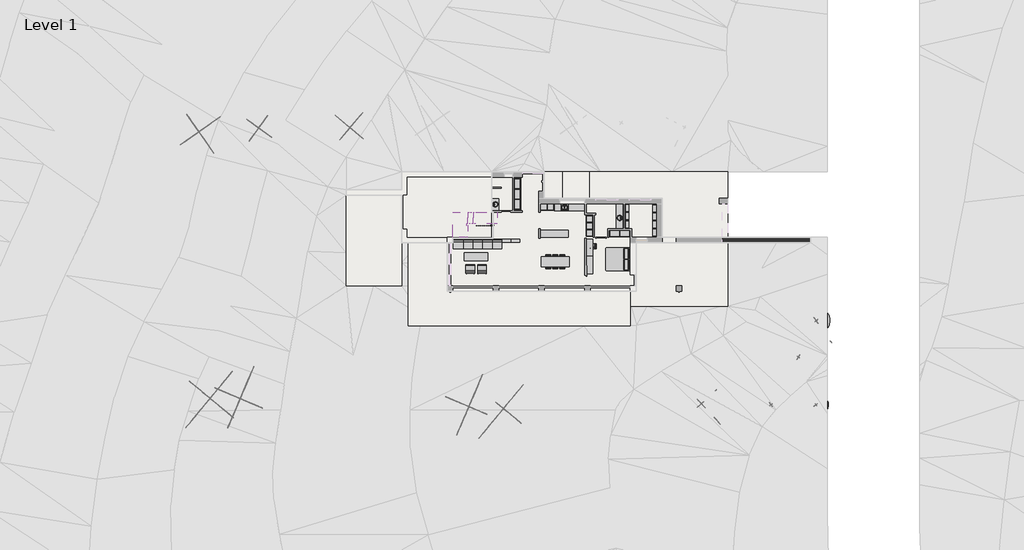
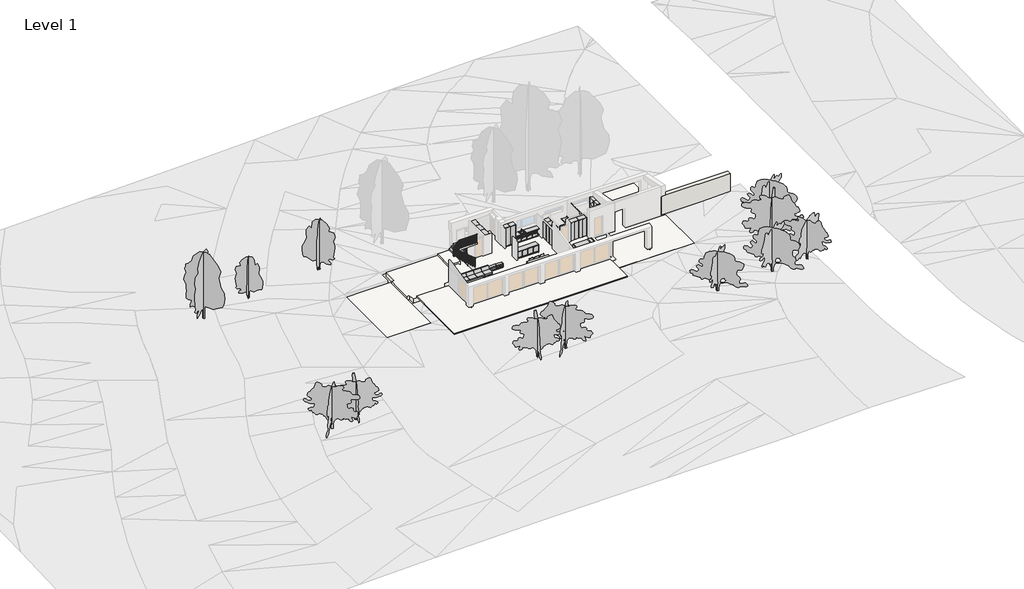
# One storey, part 2 of 3: 52 furniture elements, 12 geographic elements, 9 slabs, 3 flow terminals, 1 railing, 1 stair flight, 1 wall.
"""IFC4 building model written with IfcOpenShell, lengths in millimetres."""

from ifc_helpers import new_model, si_unit, frame, origin, place, context, project, spatial, polyline, circle_curve, outline, extrude, faceted_brep, transform, mapped, element, save
from ifc_brep_helpers import plane_surface, revolved_surface, advanced_brep
from components import sink_kitchen_single_600_x_535mm_f0c6929d, sink_vanity_round_482_x_482mm_621b7b9b, furniture_56f83323, furniture_c7f23c1d, furniture_641ccf10, furniture_1500_x_500mm_231fc5f9, furniture_2000_x_700mm_sofa_1e09125b, furniture_2400_x_900mm_03e2ad21, furniture_700_x_300_x_2200mm_207dd1db, furniture_700_x_300_x_2200mm_c5de9306, furniture_750_x_300_x_450mm_957a72fb, base_cabinet_4_drawers_600mm_2243f3cf, base_cabinet_4_drawers_600mm_b76432f2, bed_box_2000_x_2100mm_5f007bae, couch_straight_module_couch_straight_module_fcc397ea, counter_top_counter_top_cbd42a63, counter_top_w_sink_counter_top_w_sink_ceea6664, plinth_164mm_abad82ac, plinth_164mm_d3f21ff9, tall_cabinet_double_door_900mm_d8c8d432, tall_cabinet_single_door_600mm_148eb7a2, tall_cabinet_single_door_600mm_65597d0d, tall_cabinet_single_door1_600mm_2bcce20e, tall_cabinet_single_door1_600mm_31f762dd, vanity_counter_top_w_round_sink_hole_600mm_depth_7d531bef, vanity_counter_top_w_round_sink_hole_600mm_depth_8b8a0b6e, rpc_tree_deciduous_hawthorn_5_meters_4305f9dc, rpc_tree_deciduous_hawthorn_5_5_meters_a7f34c08, rpc_tree_deciduous_hawthorn_6_meters_56216889, rpc_tree_deciduous_red_ash_5_meters_e4f6fec9, rpc_tree_deciduous_red_ash_6_meters_898a03db, rpc_tree_deciduous_red_ash_8_meters_4b979eff, railing_900mm_round_profiles_ab87f60b

model = new_model("IFC4")

# Units and contexts
model_context = context("Model", 3, world=origin())
ifc_project = project(units=[si_unit("LENGTHUNIT", "METRE", prefix="MILLI")], contexts=[model_context])

# Site, building, storey
site = spatial("IfcSite", under=ifc_project)
building = spatial("IfcBuilding", under=site)
storey = spatial("IfcBuildingStorey", under=building, Name="Level 1", Elevation=0.0)

# Flow terminals
placement = place(None, origin())
sink_kitchen_single_600_x_535mm_shape = sink_kitchen_single_600_x_535mm_f0c6929d(model_context)
element("IfcFlowTerminal", 1, ObjectType="Sink Kitchen-Single : 600 x 535mm", at=placement, inside=storey, context=model_context, shape_type="MappedRepresentation", body=[
    mapped(sink_kitchen_single_600_x_535mm_shape, transform((14084.3107594, 7244.4545989, 0.0), x_axis=(1.0, 0.0, 0.0), y_axis=(0.0, 1.0, 0.0), z_axis=(0.0, 0.0, 1.0))),
])
sink_vanity_round_482_x_482mm_shape = sink_vanity_round_482_x_482mm_621b7b9b(model_context)
element("IfcFlowTerminal", 2, ObjectType="Sink Vanity - Round : 482 x 482mm", at=placement, inside=storey, context=model_context, shape_type="MappedRepresentation", body=[
    mapped(sink_vanity_round_482_x_482mm_shape, transform((8198.5909789, 7403.3482594, 0.0), x_axis=(0.0, 1.0, 0.0), y_axis=(-1.0, 0.0, 0.0), z_axis=(0.0, 0.0, 1.0))),
])
element("IfcFlowTerminal", 3, ObjectType="Sink Vanity - Round : 482 x 482mm", at=placement, inside=storey, context=model_context, shape_type="MappedRepresentation", body=[
    mapped(sink_vanity_round_482_x_482mm_shape, transform((18782.3590211, 6426.6517406, 0.0), x_axis=(0.0, -1.0, 0.0), y_axis=(1.0, 0.0, 0.0), z_axis=(0.0, 0.0, 1.0))),
])

# Furniture
furniture_shape = furniture_56f83323(model_context)
element("IfcFurniture", 4, ObjectType="Chair - Allround : Dining Chair Trendy", at=placement, inside=storey, context=model_context, shape_type="MappedRepresentation", body=[
    mapped(furniture_shape, transform((13300.0, 2860.0, 0.0), x_axis=(1.0, 0.0, 0.0), y_axis=(0.0, 1.0, 0.0), z_axis=(0.0, 0.0, 1.0))),
])
element("IfcFurniture", 5, ObjectType="Chair - Allround : Dining Chair Trendy", at=placement, inside=storey, context=model_context, shape_type="MappedRepresentation", body=[
    mapped(furniture_shape, transform((12700.0, 2860.0, 0.0), x_axis=(1.0, 0.0, 0.0), y_axis=(0.0, 1.0, 0.0), z_axis=(0.0, 0.0, 1.0))),
])
element("IfcFurniture", 6, ObjectType="Chair - Allround : Dining Chair Trendy", at=placement, inside=storey, context=model_context, shape_type="MappedRepresentation", body=[
    mapped(furniture_shape, transform((13900.0, 2220.0, 0.0), x_axis=(-1.0, 0.0, 0.0), y_axis=(0.0, -1.0, 0.0), z_axis=(0.0, 0.0, 1.0))),
])
element("IfcFurniture", 7, ObjectType="Chair - Allround : Dining Chair Trendy", at=placement, inside=storey, context=model_context, shape_type="MappedRepresentation", body=[
    mapped(furniture_shape, transform((16520.0, 3870.0, 0.0), x_axis=(0.0, -1.0, 0.0), y_axis=(1.0, 0.0, 0.0), z_axis=(0.0, 0.0, 1.0))),
])
furniture_2_shape = furniture_c7f23c1d(model_context)
element("IfcFurniture", 8, ObjectType="Armchair - Barcelona : Armchair Barcelona", at=placement, inside=storey, context=model_context, shape_type="MappedRepresentation", body=[
    mapped(furniture_2_shape, transform((6959.0, 1490.0, 0.0), x_axis=(-1.0000000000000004, 0.0, 0.0), y_axis=(0.0, -1.0000000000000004, 0.0), z_axis=(0.0, 0.0, 1.0))),
])
element("IfcFurniture", 9, ObjectType="Armchair - Barcelona : Armchair Barcelona", at=placement, inside=storey, context=model_context, shape_type="MappedRepresentation", body=[
    mapped(furniture_2_shape, transform((5947.0, 1490.0, 0.0), x_axis=(-1.0, 0.0, 0.0), y_axis=(0.0, -1.0, 0.0), z_axis=(0.0, 0.0, 1.0))),
])
furniture_3_shape = furniture_641ccf10(model_context)
element("IfcFurniture", 10, ObjectType="Chair - Allround : Dining Chair Trendy", at=placement, inside=storey, context=model_context, shape_type="MappedRepresentation", body=[
    mapped(furniture_3_shape, transform((13900.0, 2860.0, 0.0), x_axis=(-1.0, 0.0, 0.0), y_axis=(0.0, -1.0, 0.0), z_axis=(0.0, 0.0, 1.0))),
])
element("IfcFurniture", 11, ObjectType="Chair - Allround : Dining Chair Trendy", at=placement, inside=storey, context=model_context, shape_type="MappedRepresentation", body=[
    mapped(furniture_3_shape, transform((13300.0, 2220.0, 0.0), x_axis=(1.0, 0.0, 0.0), y_axis=(0.0, 1.0, 0.0), z_axis=(0.0, 0.0, 1.0))),
])
element("IfcFurniture", 12, ObjectType="Chair - Allround : Dining Chair Trendy", at=placement, inside=storey, context=model_context, shape_type="MappedRepresentation", body=[
    mapped(furniture_3_shape, transform((12700.0, 2220.0, 0.0), x_axis=(1.0, 0.0, 0.0), y_axis=(0.0, 1.0, 0.0), z_axis=(0.0, 0.0, 1.0))),
])
furniture_1500_x_500mm_shape = furniture_1500_x_500mm_231fc5f9(model_context)
element("IfcFurniture", 13, ObjectType="Table - Allround : 1500 x 500mm", at=placement, inside=storey, context=model_context, shape_type="MappedRepresentation", body=[
    mapped(furniture_1500_x_500mm_shape, transform((16275.0, 3760.0, 0.0), x_axis=(0.0, 1.0, 0.0), y_axis=(-1.0, 0.0, 0.0), z_axis=(0.0, 0.0, 1.0))),
])
element("IfcFurniture", 14, ObjectType="Table - Allround : 1500 x 500mm", at=placement, inside=storey, context=model_context, shape_type="MappedRepresentation", body=[
    mapped(furniture_1500_x_500mm_shape, transform((16275.0, 2260.0, 0.0), x_axis=(0.0, 1.0, 0.0), y_axis=(-1.0, 0.0, 0.0), z_axis=(0.0, 0.0, 1.0))),
])
furniture_2000_x_700mm_sofa_shape = furniture_2000_x_700mm_sofa_1e09125b(model_context)
element("IfcFurniture", 15, ObjectType="Table - Allround : 2000 x 700mm Sofa", at=placement, inside=storey, context=model_context, shape_type="MappedRepresentation", body=[
    mapped(furniture_2000_x_700mm_sofa_shape, transform((6440.0, 2980.0, 0.0), x_axis=(1.0, 0.0, 0.0), y_axis=(0.0, 1.0, 0.0), z_axis=(0.0, 0.0, 1.0))),
])
furniture_2400_x_900mm_shape = furniture_2400_x_900mm_03e2ad21(model_context)
element("IfcFurniture", 16, ObjectType="Table - Allround : 2400 x 900mm", at=placement, inside=storey, context=model_context, shape_type="MappedRepresentation", body=[
    mapped(furniture_2400_x_900mm_shape, transform((13300.0, 2540.0, 0.0), x_axis=(1.0, 0.0, 0.0), y_axis=(0.0, 1.0, 0.0), z_axis=(0.0, 0.0, 1.0))),
])
furniture_700_x_300_x_2200mm_shape = furniture_700_x_300_x_2200mm_207dd1db(model_context)
element("IfcFurniture", 17, ObjectType="Shelving (Floor) - Allround : 700 x 300 x 2200mm", at=placement, inside=storey, context=model_context, shape_type="MappedRepresentation", body=[
    mapped(furniture_700_x_300_x_2200mm_shape, transform((19824.8, 5780.0, 0.0), x_axis=(0.0, -1.0000000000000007, 0.0), y_axis=(1.0000000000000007, 0.0, 0.0), z_axis=(0.0, 0.0, 1.0))),
])
element("IfcFurniture", 18, ObjectType="Shelving (Floor) - Allround : 700 x 300 x 2200mm", at=placement, inside=storey, context=model_context, shape_type="MappedRepresentation", body=[
    mapped(furniture_700_x_300_x_2200mm_shape, transform((19824.8, 6480.0, 0.0), x_axis=(0.0, -1.0000000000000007, 0.0), y_axis=(1.0000000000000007, 0.0, 0.0), z_axis=(0.0, 0.0, 1.0))),
])
element("IfcFurniture", 19, ObjectType="Shelving (Floor) - Allround : 700 x 300 x 2200mm", at=placement, inside=storey, context=model_context, shape_type="MappedRepresentation", body=[
    mapped(furniture_700_x_300_x_2200mm_shape, transform((19824.8, 7180.0, 0.0), x_axis=(0.0, -1.0000000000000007, 0.0), y_axis=(1.0000000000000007, 0.0, 0.0), z_axis=(0.0, 0.0, 1.0))),
])
furniture_700_x_300_x_2200mm_2_shape = furniture_700_x_300_x_2200mm_c5de9306(model_context)
element("IfcFurniture", 20, ObjectType="Shelving (Floor) - Allround : 700 x 300 x 2200mm", at=placement, inside=storey, context=model_context, shape_type="MappedRepresentation", body=[
    mapped(furniture_700_x_300_x_2200mm_2_shape, transform((21575.2, 5760.0, 0.0), x_axis=(0.0, -1.0000000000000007, 0.0), y_axis=(1.0000000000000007, 0.0, 0.0), z_axis=(0.0, 0.0, 1.0))),
])
element("IfcFurniture", 21, ObjectType="Shelving (Floor) - Allround : 700 x 300 x 2200mm", at=placement, inside=storey, context=model_context, shape_type="MappedRepresentation", body=[
    mapped(furniture_700_x_300_x_2200mm_2_shape, transform((21575.2, 6460.0, 0.0), x_axis=(0.0, -1.0000000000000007, 0.0), y_axis=(1.0000000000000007, 0.0, 0.0), z_axis=(0.0, 0.0, 1.0))),
])
element("IfcFurniture", 22, ObjectType="Shelving (Floor) - Allround : 700 x 300 x 2200mm", at=placement, inside=storey, context=model_context, shape_type="MappedRepresentation", body=[
    mapped(furniture_700_x_300_x_2200mm_2_shape, transform((21575.2, 7160.0, 0.0), x_axis=(0.0, -1.0000000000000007, 0.0), y_axis=(1.0000000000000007, 0.0, 0.0), z_axis=(0.0, 0.0, 1.0))),
])
element("IfcFurniture", 23, ObjectType="Shelving (Floor) - Allround : 700 x 300 x 2200mm", at=placement, inside=storey, context=model_context, shape_type="MappedRepresentation", body=[
    mapped(furniture_700_x_300_x_2200mm_2_shape, transform((21575.2, 5060.0, 0.0), x_axis=(0.0, -1.0000000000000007, 0.0), y_axis=(1.0000000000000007, 0.0, 0.0), z_axis=(0.0, 0.0, 1.0))),
])
furniture_750_x_300_x_450mm_shape = furniture_750_x_300_x_450mm_957a72fb(model_context)
element("IfcFurniture", 24, ObjectType="Shelving (Floor) - Allround : 750 x 300 x 450mm", at=placement, inside=storey, context=model_context, shape_type="MappedRepresentation", body=[
    mapped(furniture_750_x_300_x_450mm_shape, transform((9085.0, 4664.8, 0.0), x_axis=(1.0000000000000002, 0.0, 0.0), y_axis=(0.0, 1.0000000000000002, 0.0), z_axis=(0.0, 0.0, 1.0))),
])
element("IfcFurniture", 25, ObjectType="Shelving (Floor) - Allround : 750 x 300 x 450mm", at=placement, inside=storey, context=model_context, shape_type="MappedRepresentation", body=[
    mapped(furniture_750_x_300_x_450mm_shape, transform((9835.0, 4664.8, 0.0), x_axis=(1.0000000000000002, 0.0, 0.0), y_axis=(0.0, 1.0000000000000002, 0.0), z_axis=(0.0, 0.0, 1.0))),
])
base_cabinet_4_drawers_600mm_shape = base_cabinet_4_drawers_600mm_2243f3cf(model_context)
element("IfcFurniture", 26, ObjectType="Base Cabinet - 4 Drawers : 600mm", at=placement, inside=storey, context=model_context, shape_type="MappedRepresentation", body=[
    mapped(base_cabinet_4_drawers_600mm_shape, transform((13455.2996736, 7560.9817781, 0.0), x_axis=(1.0, 0.0, 0.0), y_axis=(0.0, 1.0, 0.0), z_axis=(0.0, 0.0, 1.0))),
])
element("IfcFurniture", 27, ObjectType="Base Cabinet - 4 Drawers : 600mm", at=placement, inside=storey, context=model_context, shape_type="MappedRepresentation", body=[
    mapped(base_cabinet_4_drawers_600mm_shape, transform((14655.2996736, 7560.0, 0.0), x_axis=(1.0, 0.0, 0.0), y_axis=(0.0, 1.0, 0.0), z_axis=(0.0, 0.0, 1.0))),
])
element("IfcFurniture", 28, ObjectType="Base Cabinet - 4 Drawers : 600mm", at=placement, inside=storey, context=model_context, shape_type="MappedRepresentation", body=[
    mapped(base_cabinet_4_drawers_600mm_shape, transform((15255.2996736, 7560.0, 0.0), x_axis=(1.0, 0.0, 0.0), y_axis=(0.0, 1.0, 0.0), z_axis=(0.0, 0.0, 1.0))),
])
element("IfcFurniture", 29, ObjectType="Base Cabinet - 4 Drawers : 600mm", at=placement, inside=storey, context=model_context, shape_type="MappedRepresentation", body=[
    mapped(base_cabinet_4_drawers_600mm_shape, transform((12344.7003264, 4680.0, 0.0), x_axis=(-1.0000000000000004, 0.0, 0.0), y_axis=(0.0, -1.0000000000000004, 0.0), z_axis=(0.0, 0.0, 1.0))),
])
element("IfcFurniture", 30, ObjectType="Base Cabinet - 4 Drawers : 600mm", at=placement, inside=storey, context=model_context, shape_type="MappedRepresentation", body=[
    mapped(base_cabinet_4_drawers_600mm_shape, transform((12944.7003264, 4680.0, 0.0), x_axis=(-1.0, 0.0, 0.0), y_axis=(0.0, -1.0, 0.0), z_axis=(0.0, 0.0, 1.0))),
])
element("IfcFurniture", 31, ObjectType="Base Cabinet - 4 Drawers : 600mm", at=placement, inside=storey, context=model_context, shape_type="MappedRepresentation", body=[
    mapped(base_cabinet_4_drawers_600mm_shape, transform((13544.7003264, 4680.0, 0.0), x_axis=(-1.0, 0.0, 0.0), y_axis=(0.0, -1.0, 0.0), z_axis=(0.0, 0.0, 1.0))),
])
element("IfcFurniture", 32, ObjectType="Base Cabinet - 4 Drawers : 600mm", at=placement, inside=storey, context=model_context, shape_type="MappedRepresentation", body=[
    mapped(base_cabinet_4_drawers_600mm_shape, transform((14144.7003264, 4680.0, 0.0), x_axis=(-1.0, 0.0, 0.0), y_axis=(0.0, -1.0, 0.0), z_axis=(0.0, 0.0, 1.0))),
])
base_cabinet_4_drawers_600mm_2_shape = base_cabinet_4_drawers_600mm_b76432f2(model_context)
element("IfcFurniture", 33, ObjectType="Base Cabinet - 4 Drawers : 600mm", at=placement, inside=storey, context=model_context, shape_type="MappedRepresentation", body=[
    mapped(base_cabinet_4_drawers_600mm_2_shape, transform((14055.2996736, 7560.0, 0.0), x_axis=(1.0, 0.0, 0.0), y_axis=(0.0, 1.0, 0.0), z_axis=(0.0, 0.0, 1.0))),
])
bed_box_2000_x_2100mm_shape = bed_box_2000_x_2100mm_5f007bae(model_context)
element("IfcFurniture", 34, ObjectType="Bed - Box : 2000 x 2100mm", at=placement, inside=storey, context=model_context, shape_type="MappedRepresentation", body=[
    mapped(bed_box_2000_x_2100mm_shape, transform((18934.4295082, 3099.152459, 0.0), x_axis=(0.0, -1.0000000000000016, 0.0), y_axis=(1.0000000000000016, 0.0, 0.0), z_axis=(0.0, 0.0, 1.0))),
])
couch_straight_module_couch_straight_module_shape = couch_straight_module_couch_straight_module_fcc397ea(model_context)
element("IfcFurniture", 35, ObjectType="Couch - Straight Module : Couch straight module", at=placement, inside=storey, context=model_context, shape_type="MappedRepresentation", body=[
    mapped(couch_straight_module_couch_straight_module_shape, transform((4490.0, 3680.0, 0.0), x_axis=(1.0, 0.0, 0.0), y_axis=(0.0, 1.0, 0.0), z_axis=(0.0, 0.0, 1.0))),
])
element("IfcFurniture", 36, ObjectType="Couch - Straight Module : Couch straight module", at=placement, inside=storey, context=model_context, shape_type="MappedRepresentation", body=[
    mapped(couch_straight_module_couch_straight_module_shape, transform((5325.0, 3680.0, 0.0), x_axis=(1.0, 0.0, 0.0), y_axis=(0.0, 1.0, 0.0), z_axis=(0.0, 0.0, 1.0))),
])
element("IfcFurniture", 37, ObjectType="Couch - Straight Module : Couch straight module", at=placement, inside=storey, context=model_context, shape_type="MappedRepresentation", body=[
    mapped(couch_straight_module_couch_straight_module_shape, transform((6160.0, 3680.0, 0.0), x_axis=(1.0, 0.0, 0.0), y_axis=(0.0, 1.0, 0.0), z_axis=(0.0, 0.0, 1.0))),
])
element("IfcFurniture", 38, ObjectType="Couch - Straight Module : Couch straight module", at=placement, inside=storey, context=model_context, shape_type="MappedRepresentation", body=[
    mapped(couch_straight_module_couch_straight_module_shape, transform((6995.0, 3680.0, 0.0), x_axis=(1.0, 0.0, 0.0), y_axis=(0.0, 1.0, 0.0), z_axis=(0.0, 0.0, 1.0))),
])
element("IfcFurniture", 39, ObjectType="Couch - Straight Module : Couch straight module", at=placement, inside=storey, context=model_context, shape_type="MappedRepresentation", body=[
    mapped(couch_straight_module_couch_straight_module_shape, transform((7830.0, 3680.0, 0.0), x_axis=(1.0, 0.0, 0.0), y_axis=(0.0, 1.0, 0.0), z_axis=(0.0, 0.0, 1.0))),
])
counter_top_counter_top_shape = counter_top_counter_top_cbd42a63(model_context)
element("IfcFurniture", 40, ObjectType="Counter Top : Counter Top", at=placement, inside=storey, context=model_context, shape_type="MappedRepresentation", body=[
    mapped(counter_top_counter_top_shape, transform((13844.7003264, 4680.0, 0.0), x_axis=(-1.0000000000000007, 0.0, 0.0), y_axis=(0.0, -1.0000000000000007, 0.0), z_axis=(0.0, 0.0, 1.0))),
])
counter_top_w_sink_counter_top_w_sink_shape = counter_top_w_sink_counter_top_w_sink_ceea6664(model_context)
element("IfcFurniture", 41, ObjectType="Counter Top w Sink : Counter Top w Sink", at=placement, inside=storey, context=model_context, shape_type="MappedRepresentation", body=[
    mapped(counter_top_w_sink_counter_top_w_sink_shape, transform((13755.2996736, 7560.0, 0.0), x_axis=(1.0, 0.0, 0.0), y_axis=(0.0, 1.0, 0.0), z_axis=(0.0, 0.0, 1.0))),
])
plinth_164mm_shape = plinth_164mm_abad82ac(model_context)
element("IfcFurniture", 42, ObjectType="Plinth : 164mm", at=placement, inside=storey, context=model_context, shape_type="MappedRepresentation", body=[
    mapped(plinth_164mm_shape, transform((13845.2996736, 7560.0, 0.0), x_axis=(1.0, 0.0, 0.0), y_axis=(0.0, 1.0, 0.0), z_axis=(0.0, 0.0, 1.0))),
])
plinth_164mm_2_shape = plinth_164mm_d3f21ff9(model_context)
element("IfcFurniture", 43, ObjectType="Plinth : 164mm", at=placement, inside=storey, context=model_context, shape_type="MappedRepresentation", body=[
    mapped(plinth_164mm_2_shape, transform((13244.7003264, 4680.0, 0.0), x_axis=(-1.0, 0.0, 0.0), y_axis=(0.0, -1.0, 0.0), z_axis=(0.0, 0.0, 1.0))),
])
tall_cabinet_double_door_900mm_shape = tall_cabinet_double_door_900mm_d8c8d432(model_context)
element("IfcFurniture", 44, ObjectType="Tall Cabinet - Double door : 900mm", at=placement, inside=storey, context=model_context, shape_type="MappedRepresentation", body=[
    mapped(tall_cabinet_double_door_900mm_shape, transform((9720.0, 7455.2996736, 0.0), x_axis=(0.0, 1.0000000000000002, 0.0), y_axis=(-1.0000000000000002, 0.0, 0.0), z_axis=(0.0, 0.0, 1.0))),
])
element("IfcFurniture", 45, ObjectType="Tall Cabinet - Double door : 900mm", at=placement, inside=storey, context=model_context, shape_type="MappedRepresentation", body=[
    mapped(tall_cabinet_double_door_900mm_shape, transform((9720.0, 9255.2996736, 0.0), x_axis=(0.0, 1.0000000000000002, 0.0), y_axis=(-1.0000000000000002, 0.0, 0.0), z_axis=(0.0, 0.0, 1.0))),
])
element("IfcFurniture", 46, ObjectType="Tall Cabinet - Double door : 900mm", at=placement, inside=storey, context=model_context, shape_type="MappedRepresentation", body=[
    mapped(tall_cabinet_double_door_900mm_shape, transform((9720.0, 8355.2996736, 0.0), x_axis=(0.0, 1.0, 0.0), y_axis=(-1.0, 0.0, 0.0), z_axis=(0.0, 0.0, 1.0))),
])
element("IfcFurniture", 47, ObjectType="Tall Cabinet - Double door1 : 900mm 2", at=placement, inside=storey, context=model_context, shape_type="MappedRepresentation", body=[
    mapped(tall_cabinet_double_door_900mm_shape, transform((19275.2996736, 5280.0, 0.0), x_axis=(1.0000000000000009, 0.0, 0.0), y_axis=(0.0, 1.0000000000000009, 0.0), z_axis=(0.0, 0.0, 1.0))),
])
element("IfcFurniture", 48, ObjectType="Tall Cabinet - Double door1 : 900mm 2", at=placement, inside=storey, context=model_context, shape_type="MappedRepresentation", body=[
    mapped(tall_cabinet_double_door_900mm_shape, transform((18375.2996736, 5280.0, 0.0), x_axis=(1.0000000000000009, 0.0, 0.0), y_axis=(0.0, 1.0000000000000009, 0.0), z_axis=(0.0, 0.0, 1.0))),
])
tall_cabinet_single_door_600mm_shape = tall_cabinet_single_door_600mm_148eb7a2(model_context)
element("IfcFurniture", 49, ObjectType="Tall Cabinet - Single door : 600mm", at=placement, inside=storey, context=model_context, shape_type="MappedRepresentation", body=[
    mapped(tall_cabinet_single_door_600mm_shape, transform((12255.2996736, 7560.0, 0.0), x_axis=(1.0000000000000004, 0.0, 0.0), y_axis=(0.0, 1.0000000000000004, 0.0), z_axis=(0.0, 0.0, 1.0))),
])
tall_cabinet_single_door_600mm_2_shape = tall_cabinet_single_door_600mm_65597d0d(model_context)
element("IfcFurniture", 50, ObjectType="Tall Cabinet - Single door : 600mm", at=placement, inside=storey, context=model_context, shape_type="MappedRepresentation", body=[
    mapped(tall_cabinet_single_door_600mm_2_shape, transform((12944.7003264, 7560.0, 0.0), x_axis=(-1.0, 0.0, 0.0), y_axis=(0.0, -1.0, 0.0), z_axis=(0.0, 0.0, 1.0))),
])
tall_cabinet_single_door1_600mm_shape = tall_cabinet_single_door1_600mm_2bcce20e(model_context)
element("IfcFurniture", 51, ObjectType="Tall Cabinet - Single door1 : 600mm", at=placement, inside=storey, context=model_context, shape_type="MappedRepresentation", body=[
    mapped(tall_cabinet_single_door1_600mm_shape, transform((16560.0, 6284.7003264, 0.0), x_axis=(0.0, -1.0000000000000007, 0.0), y_axis=(1.0000000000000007, 0.0, 0.0), z_axis=(0.0, 0.0, 1.0))),
])
tall_cabinet_single_door1_600mm_2_shape = tall_cabinet_single_door1_600mm_31f762dd(model_context)
element("IfcFurniture", 52, ObjectType="Tall Cabinet - Single door1 : 600mm", at=placement, inside=storey, context=model_context, shape_type="MappedRepresentation", body=[
    mapped(tall_cabinet_single_door1_600mm_2_shape, transform((16560.0, 5595.2996736, 0.0), x_axis=(0.0, 1.0000000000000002, 0.0), y_axis=(-1.0000000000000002, 0.0, 0.0), z_axis=(0.0, 0.0, 1.0))),
])
element("IfcFurniture", 53, ObjectType="Tall Cabinet - Single door1 : 600mm", at=placement, inside=storey, context=model_context, shape_type="MappedRepresentation", body=[
    mapped(tall_cabinet_single_door1_600mm_2_shape, transform((16560.0, 4995.2996736, 0.0), x_axis=(0.0, 1.0000000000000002, 0.0), y_axis=(-1.0000000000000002, 0.0, 0.0), z_axis=(0.0, 0.0, 1.0))),
])
vanity_counter_top_w_round_sink_hole_600mm_depth_shape = vanity_counter_top_w_round_sink_hole_600mm_depth_7d531bef(model_context)
element("IfcFurniture", 54, ObjectType="Vanity Counter Top w Round Sink Hole : 600mm Depth", at=placement, inside=storey, context=model_context, shape_type="MappedRepresentation", body=[
    mapped(vanity_counter_top_w_round_sink_hole_600mm_depth_shape, transform((7800.0, 8287.4622951, 0.0), x_axis=(0.0, 1.0, 0.0), y_axis=(-1.0, 0.0, 0.0), z_axis=(0.0, 0.0, 1.0))),
])
vanity_counter_top_w_round_sink_hole_600mm_depth_2_shape = vanity_counter_top_w_round_sink_hole_600mm_depth_8b8a0b6e(model_context)
element("IfcFurniture", 55, ObjectType="Vanity Counter Top w Round Sink Hole : 600mm Depth", at=placement, inside=storey, context=model_context, shape_type="MappedRepresentation", body=[
    mapped(vanity_counter_top_w_round_sink_hole_600mm_depth_2_shape, transform((19200.0, 6232.5377049, 0.0), x_axis=(0.0, -1.0, 0.0), y_axis=(1.0, 0.0, 0.0), z_axis=(0.0, 0.0, 1.0))),
])

# Geographic elements
rpc_tree_deciduous_hawthorn_5_meters_shape = rpc_tree_deciduous_hawthorn_5_meters_4305f9dc(model_context)
element("IfcGeographicElement", 56, ObjectType="RPC Tree - Deciduous : Hawthorn - 5 Meters", at=placement, inside=storey, context=model_context, shape_type="MappedRepresentation", body=[
    mapped(rpc_tree_deciduous_hawthorn_5_meters_shape, transform((25931.4778564, -9732.4876961, 17.9054303), x_axis=(0.7313537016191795, 0.681998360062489, 0.0), y_axis=(-0.681998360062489, 0.7313537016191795, 0.0), z_axis=(0.0, 0.0, 1.0))),
])
element("IfcGeographicElement", 57, ObjectType="RPC Tree - Deciduous : Hawthorn - 5 Meters", at=placement, inside=storey, context=model_context, shape_type="MappedRepresentation", body=[
    mapped(rpc_tree_deciduous_hawthorn_5_meters_shape, transform((35831.4778564, -9832.4876961, 354.4903961), x_axis=(-0.5735764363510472, 0.819152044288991, 0.0), y_axis=(-0.819152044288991, -0.5735764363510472, 0.0), z_axis=(0.0, 0.0, 1.0))),
])
element("IfcGeographicElement", 58, ObjectType="RPC Tree - Deciduous : Hawthorn - 5 Meters", at=placement, inside=storey, context=model_context, shape_type="MappedRepresentation", body=[
    mapped(rpc_tree_deciduous_hawthorn_5_meters_shape, transform((-13954.6918253, -9293.9976337, -1439.2268274), x_axis=(-0.920504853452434, 0.39073112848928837, 0.0), y_axis=(-0.39073112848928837, -0.920504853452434, 0.0), z_axis=(0.0, 0.0, 1.0))),
])
element("IfcGeographicElement", 59, ObjectType="RPC Tree - Deciduous : Hawthorn - 5 Meters", at=placement, inside=storey, context=model_context, shape_type="MappedRepresentation", body=[
    mapped(rpc_tree_deciduous_hawthorn_5_meters_shape, transform((5822.4581118, -9984.6309279, -560.6480511), x_axis=(-0.920504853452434, 0.39073112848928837, 0.0), y_axis=(-0.39073112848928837, -0.920504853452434, 0.0), z_axis=(0.0, 0.0, 1.0))),
])
rpc_tree_deciduous_hawthorn_5_5_meters_shape = rpc_tree_deciduous_hawthorn_5_5_meters_a7f34c08(model_context)
element("IfcGeographicElement", 60, ObjectType="RPC Tree - Deciduous : Hawthorn - 5.5 Meters", at=placement, inside=storey, context=model_context, shape_type="MappedRepresentation", body=[
    mapped(rpc_tree_deciduous_hawthorn_5_5_meters_shape, transform((35860.8882395, -2552.0610026, 80.1860957), x_axis=(0.819152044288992, 0.5735764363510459, 0.0), y_axis=(-0.5735764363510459, 0.819152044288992, 0.0), z_axis=(0.0, 0.0, 1.0))),
])
element("IfcGeographicElement", 61, ObjectType="RPC Tree - Deciduous : Hawthorn - 5.5 Meters", at=placement, inside=storey, context=model_context, shape_type="MappedRepresentation", body=[
    mapped(rpc_tree_deciduous_hawthorn_5_5_meters_shape, transform((31951.4778564, -9832.4876961, 264.732577), x_axis=(0.819152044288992, 0.5735764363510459, 0.0), y_axis=(-0.5735764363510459, 0.819152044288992, 0.0), z_axis=(0.0, 0.0, 1.0))),
])
element("IfcGeographicElement", 62, ObjectType="RPC Tree - Deciduous : Hawthorn - 5.5 Meters", at=placement, inside=storey, context=model_context, shape_type="MappedRepresentation", body=[
    mapped(rpc_tree_deciduous_hawthorn_5_5_meters_shape, transform((-16559.4553591, -9267.9791277, -1603.9724366), x_axis=(0.7705446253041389, -0.6373860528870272, 0.0), y_axis=(0.6373860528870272, 0.7705446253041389, 0.0), z_axis=(0.0, 0.0, 1.0))),
])
element("IfcGeographicElement", 63, ObjectType="RPC Tree - Deciduous : Hawthorn - 5.5 Meters", at=placement, inside=storey, context=model_context, shape_type="MappedRepresentation", body=[
    mapped(rpc_tree_deciduous_hawthorn_5_5_meters_shape, transform((8814.2832092, -10154.0496034, -473.927375), x_axis=(0.7705446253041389, -0.6373860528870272, 0.0), y_axis=(0.6373860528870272, 0.7705446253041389, 0.0), z_axis=(0.0, 0.0, 1.0))),
])
rpc_tree_deciduous_hawthorn_6_meters_shape = rpc_tree_deciduous_hawthorn_6_meters_56216889(model_context)
element("IfcGeographicElement", 64, ObjectType="RPC Tree - Deciduous : Hawthorn - 6 Meters", at=placement, inside=storey, context=model_context, shape_type="MappedRepresentation", body=[
    mapped(rpc_tree_deciduous_hawthorn_6_meters_shape, transform((34326.5892258, -5697.8401647, 147.5518691), x_axis=(-0.819152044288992, 0.5735764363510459, 0.0), y_axis=(-0.5735764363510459, -0.819152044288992, 0.0), z_axis=(0.0, 0.0, 1.0))),
])
rpc_tree_deciduous_red_ash_5_meters_shape = rpc_tree_deciduous_red_ash_5_meters_e4f6fec9(model_context)
element("IfcGeographicElement", 65, ObjectType="RPC Tree - Deciduous : Red Ash - 5 Meters", at=placement, inside=storey, context=model_context, shape_type="MappedRepresentation", body=[
    mapped(rpc_tree_deciduous_red_ash_5_meters_shape, transform((-12360.6300549, 14116.9024271, -1884.1929158), x_axis=(0.8090169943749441, -0.5877852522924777, 0.0), y_axis=(0.5877852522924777, 0.8090169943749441, 0.0), z_axis=(0.0, 0.0, 1.0))),
])
rpc_tree_deciduous_red_ash_6_meters_shape = rpc_tree_deciduous_red_ash_6_meters_898a03db(model_context)
element("IfcGeographicElement", 66, ObjectType="RPC Tree - Deciduous : Red Ash - 6 Meters", at=placement, inside=storey, context=model_context, shape_type="MappedRepresentation", body=[
    mapped(rpc_tree_deciduous_red_ash_6_meters_shape, transform((-4460.1427165, 14144.8220245, -1293.8504122), x_axis=(-0.7660444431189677, 0.6427876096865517, 0.0), y_axis=(-0.6427876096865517, -0.7660444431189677, 0.0), z_axis=(0.0, 0.0, 1.0))),
])
rpc_tree_deciduous_red_ash_8_meters_shape = rpc_tree_deciduous_red_ash_8_meters_4b979eff(model_context)
element("IfcGeographicElement", 67, ObjectType="RPC Tree - Deciduous : Red Ash - 8 Meters", at=placement, inside=storey, context=model_context, shape_type="MappedRepresentation", body=[
    mapped(rpc_tree_deciduous_red_ash_8_meters_shape, transform((-17521.9198672, 13783.8516983, -2283.4360142), x_axis=(0.8191520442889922, 0.5735764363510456, 0.0), y_axis=(-0.5735764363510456, 0.8191520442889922, 0.0), z_axis=(0.0, 0.0, 1.0))),
])

# Railing
railing_900mm_round_profiles_shape = railing_900mm_round_profiles_ab87f60b(model_context)
element("IfcRailing", 68, ObjectType="900mm round profiles", at=placement, inside=storey, context=model_context, shape_type="MappedRepresentation", body=[
    mapped(railing_900mm_round_profiles_shape, transform((0.0, 0.0, 0.0), x_axis=(1.0, 0.0, 0.0), y_axis=(0.0, 1.0, 0.0), z_axis=(0.0, 0.0, 1.0))),
])

# Slabs
element("IfcSlab", 69, ObjectType="200 mm Thickness", at=placement, inside=storey, context=model_context, shape_type="Brep", body=[
    faceted_brep([(5730.0, 4680.0, 2000.0), (5730.0, 5680.0, 2000.0), (5580.0, 5680.0, 2000.0), (5580.0, 5840.0, 2000.0), (5728.5962598, 5840.0, 2000.0), (5730.0, 5840.0, 2000.0), (5730.0, 6840.0, 2000.0), (5728.5962598, 6840.0, 2000.0), (4440.0, 6840.0, 2000.0), (4440.0, 4680.0, 2000.0), (5501.4037402, 4680.0, 2000.0), (5730.0, 4680.0, 1800.0), (5730.0, 4680.0, 1601.2206436), (5730.0, 5680.0, 1601.2206436), (5730.0, 5680.0, 1800.0), (5501.4037402, 5680.0, 1800.0), (5580.0, 5680.0, 1800.0), (5730.0, 6840.0, 1801.2206436), (5728.5962598, 6840.0, 1800.0), (4440.0, 6840.0, 1800.0), (4440.0, 4680.0, 1800.0), (5501.4037402, 4680.0, 1800.0), (5728.5962598, 5840.0, 1800.0), (5580.0, 5840.0, 1800.0), (5730.0, 5840.0, 1801.2206436)], [[[0, 1, 2, 3, 4, 5, 6, 7, 8, 9, 10]], [[1, 0, 11, 12, 13, 14]], [[2, 1, 14, 13, 15, 16]], [[6, 17, 18, 19, 8, 7]], [[9, 8, 19, 20]], [[12, 11, 0, 10, 9, 20, 21]], [[15, 21, 20, 19, 18, 22, 23, 16]], [[21, 15, 13, 12]], [[22, 18, 17, 24]], [[3, 2, 16, 23]], [[3, 23, 22, 24, 5, 4]], [[6, 5, 24, 17]]]),
])
element("IfcSlab", 70, ObjectType="200 mm Thickness", at=placement, inside=storey, context=model_context, shape_type="Brep", body=[
    faceted_brep([(6190.0, 6840.0, 2600.0), (6190.0, 5840.0, 2600.0), (6418.5962598, 5840.0, 2600.0), (8280.0, 5840.0, 2600.0), (8280.0, 6840.0, 2600.0), (6418.5962598, 6840.0, 2600.0), (8280.0, 5840.0, 2400.0), (8280.0, 6840.0, 2400.0), (6190.0, 6840.0, 2201.2206436), (6190.0, 6840.0, 2400.0), (6418.5962598, 6840.0, 2400.0), (6190.0, 5840.0, 2400.0), (6190.0, 5840.0, 2201.2206436), (6418.5962598, 5840.0, 2400.0)], [[[0, 1, 2, 3, 4, 5]], [[4, 3, 6, 7]], [[8, 9, 0, 5, 4, 7, 10]], [[1, 11, 12, 13, 6, 3, 2]], [[13, 10, 7, 6]], [[1, 0, 9, 8, 12, 11]], [[10, 13, 12, 8]]]),
])
element("IfcSlab", 71, ObjectType="Generic - 500mm", at=placement, inside=storey, context=model_context, shape_type="Brep", body=[
    faceted_brep([(10440.0, 9840.0, -500.0), (10440.0, 10162.5, -500.0), (12200.0, 10162.5, -500.0), (12200.0, 9840.0, -500.0), (12200.0, 8640.5, -500.0), (11880.0, 8640.5, -500.0), (11880.0, 7560.0, -500.0), (22080.0, 7560.0, -500.0), (22080.0, 4680.0, -500.0), (21240.0, 4680.0, -500.0), (21240.0, 4425.0, -500.0), (20280.0, 4425.0, -500.0), (20280.0, 4680.0, -500.0), (19800.0, 4680.0, -500.0), (19800.0, 1440.0, -500.0), (20115.0, 1440.0, -500.0), (20115.0, 480.0, -500.0), (19800.0, 480.0, -500.0), (19800.0, 415.0, -500.0), (4240.0, 415.0, -500.0), (4240.0, 480.0, -500.0), (4240.0, 4200.0, -500.0), (4440.0, 4200.0, -500.0), (4440.0, 4560.0, -500.0), (7800.0, 4560.0, -500.0), (7800.0, 4680.0, -500.0), (7800.0, 6840.0, -500.0), (7800.0, 9840.0, -500.0), (10440.0, 9840.0, 0.0), (7800.0, 9840.0, 0.0), (7800.0, 4680.0, 0.0), (7800.0, 4560.0, 0.0), (4440.0, 4560.0, 0.0), (4440.0, 4200.0, 0.0), (4240.0, 4200.0, 0.0), (4240.0, 480.0, 0.0), (4240.0, 415.0, 0.0), (19800.0, 415.0, 0.0), (19800.0, 480.0, 0.0), (20115.0, 480.0, 0.0), (20115.0, 1440.0, 0.0), (19800.0, 1440.0, 0.0), (19800.0, 4200.0, 0.0), (19800.0, 4680.0, 0.0), (20280.0, 4680.0, 0.0), (20280.0, 4425.0, 0.0), (21240.0, 4425.0, 0.0), (21240.0, 4680.0, 0.0), (22080.0, 4680.0, 0.0), (22080.0, 7560.0, 0.0), (12360.0, 7560.0, 0.0), (11880.0, 7560.0, 0.0), (11880.0, 8640.5, 0.0), (12200.0, 8640.5, 0.0), (12200.0, 9840.0, 0.0), (12200.0, 10162.5, 0.0), (10440.0, 10162.5, 0.0)], [[[0, 1, 2, 3, 4, 5, 6, 7, 8, 9, 10, 11, 12, 13, 14, 15, 16, 17, 18, 19, 20, 21, 22, 23, 24, 25, 26, 27]], [[28, 29, 30, 31, 32, 33, 34, 35, 36, 37, 38, 39, 40, 41, 42, 43, 44, 45, 46, 47, 48, 49, 50, 51, 52, 53, 54, 55, 56]], [[6, 5, 52, 51]], [[7, 6, 51, 50, 49]], [[19, 18, 37, 36]], [[21, 20, 19, 36, 35, 34]], [[0, 27, 29, 28]], [[13, 12, 44, 43]], [[18, 17, 38, 37]], [[8, 7, 49, 48]], [[22, 21, 34, 33]], [[23, 22, 33, 32]], [[24, 23, 32, 31]], [[27, 26, 25, 24, 31, 30, 29]], [[4, 3, 2, 55, 54, 53]], [[5, 4, 53, 52]], [[9, 8, 48, 47]], [[10, 9, 47, 46]], [[11, 10, 46, 45]], [[12, 11, 45, 44]], [[14, 13, 43, 42, 41]], [[15, 14, 41, 40]], [[16, 15, 40, 39]], [[17, 16, 39, 38]], [[1, 0, 28, 56]], [[2, 1, 56, 55]]]),
])
element("IfcSlab", 72, ObjectType="Generic - 500mm", at=placement, inside=storey, context=model_context, shape_type="SweptSolid", body=[
    extrude(outline(polyline([(7800.0, 4680.0), (4320.0, 4680.0), (480.0, 4680.0), (480.0, 5400.0), (165.0, 5400.0), (165.0, 8280.0), (480.0, 8280.0), (480.0, 9840.0), (7800.0, 9840.0), (7800.0, 4680.0)])), frame((0.0, 0.0, -1100.0), z_axis=(0.0, 0.0, 1.0), x_axis=(1.0, 0.0, 0.0)), (0.0, 0.0, 1.0), 500.0),
])
element("IfcSlab", 73, ObjectType="Generic - Concrete - 100mm (Ext)", at=placement, inside=storey, context=model_context, shape_type="AdvancedBrep", body=[
    advanced_brep(
    [(22556.2008084, 8040.0, -200.0), (12360.0, 8040.0, -200.0), (12360.0, 10320.0, -200.0), (28196.2008084, 10320.0, -200.0), (28196.2008084, 8040.0, -200.0), (28196.2008084, 7560.0, -200.0), (28196.2008084, 4680.0, -200.0), (28196.2008084, 4200.0, -200.0), (28196.2008084, -1300.0, -200.0), (19796.2008084, -1300.0, -200.0), (19796.2008084, 0.0, -200.0), (20276.2008084, 0.0, -200.0), (20276.2008084, 4200.0, -200.0), (22556.2008084, 4200.0, -200.0), (22556.2008084, 4680.0, -200.0), (24000.0, -97.5, -200.0), (24000.0, -22.5, -200.0), (22556.2008084, 8040.0, -100.0), (16279.8209802, 8040.0, -100.0), (13955.5016504, 8040.0, 0.0), (12360.0, 8040.0, 0.0), (12360.0, 9840.0, 0.0), (12360.0, 10320.0, 0.0), (13955.5016504, 10320.0, 0.0), (16279.8209802, 10320.0, -100.0), (28196.2008084, 10320.0, -100.0), (28196.2008084, 8040.0, -100.0), (28196.2008084, 7560.0, -100.0), (28196.2008084, 4680.0, -100.0), (28196.2008084, 4200.0, -100.0), (28196.2008084, -1300.0, -100.0), (19796.2008084, -1300.0, -100.0), (19796.2008084, 0.0, -100.0), (20276.2008084, 0.0, -100.0), (20276.2008084, 4200.0, -100.0), (22556.2008084, 4200.0, -100.0), (22556.2008084, 4680.0, -100.0), (24000.0, -22.5, -100.0), (24000.0, -97.5, -100.0)],
    [
        (0, 1),
        (1, 2),
        (2, 3),
        (3, 4),
        (4, 5),
        (5, 6),
        (6, 7),
        (7, 8),
        (8, 9),
        (9, 10),
        (10, 11),
        (11, 12),
        (12, 13),
        (13, 14),
        (14, 0),
        (15, 16, circle_curve(frame((24000.0, -60.0, -200.0), z_axis=(0.0, 0.0, 1.0), x_axis=(0.0, 1.0, 0.0)), 37.5)),
        (16, 15, circle_curve(frame((24000.0, -60.0, -200.0), z_axis=(0.0, 0.0, 1.0), x_axis=(0.0, 1.0, 0.0)), 37.5)),
        (0, 17),
        (17, 18),
        (18, 19),
        (19, 20),
        (20, 1),
        (20, 21),
        (21, 22),
        (22, 2),
        (22, 23),
        (23, 24),
        (24, 25),
        (25, 3),
        (25, 26),
        (26, 27),
        (27, 28),
        (28, 29),
        (29, 30),
        (30, 8),
        (30, 31),
        (31, 9),
        (31, 32),
        (32, 10),
        (32, 33),
        (33, 11),
        (33, 34),
        (34, 12),
        (34, 35),
        (35, 13),
        (35, 36),
        (36, 17),
        (24, 18),
        (37, 38, circle_curve(frame((24000.0, -60.0, -100.0), z_axis=(0.0, 0.0, -1.0), x_axis=(0.0, 1.0, 0.0)), 37.5)),
        (38, 37, circle_curve(frame((24000.0, -60.0, -100.0), z_axis=(0.0, 0.0, -1.0), x_axis=(0.0, 1.0, 0.0)), 37.5)),
        (23, 19),
        (15, 38),
        (37, 16),
    ],
    [
        plane_surface(frame((28196.2008084, 8040.0, -200.0), z_axis=(0.0, 0.0, -1.0), x_axis=(-1.0, 0.0, 0.0))),
        plane_surface(frame((22556.2008084, 8040.0, -200.0), z_axis=(0.0, -1.0, 0.0), x_axis=(0.0, 0.0, 1.0))),
        plane_surface(frame((12360.0, 8040.0, -200.0), z_axis=(-1.0, 0.0, 0.0), x_axis=(0.0, 0.0, 1.0))),
        plane_surface(frame((12360.0, 10320.0, -200.0), z_axis=(0.0, 1.0, 0.0), x_axis=(0.0, 0.0, 1.0))),
        plane_surface(frame((28196.2008084, 10320.0, -200.0), z_axis=(1.0, 0.0, 0.0), x_axis=(0.0, 0.0, 1.0))),
        plane_surface(frame((28196.2008084, -1300.0, -200.0), z_axis=(0.0, -1.0, 0.0), x_axis=(0.0, 0.0, 1.0))),
        plane_surface(frame((19796.2008084, -1300.0, -200.0), z_axis=(-1.0, 0.0, 0.0), x_axis=(0.0, 0.0, 1.0))),
        plane_surface(frame((19796.2008084, 0.0, -200.0), z_axis=(0.0, 1.0, 0.0), x_axis=(0.0, 0.0, 1.0))),
        plane_surface(frame((20276.2008084, 0.0, -200.0), z_axis=(-1.0, 0.0, 0.0), x_axis=(0.0, 0.0, 1.0))),
        plane_surface(frame((20276.2008084, 4200.0, -200.0), z_axis=(0.0, 1.0, 0.0), x_axis=(0.0, 0.0, 1.0))),
        plane_surface(frame((22556.2008084, 4200.0, -200.0), z_axis=(-1.0, 0.0, 0.0), x_axis=(0.0, 0.0, 1.0))),
        plane_surface(frame((21420.9248428, 4252.0, -100.0), z_axis=(0.0, 0.0, 1.0), x_axis=(-1.0, 0.0, 0.0))),
        plane_surface(frame((15117.6613153, 9180.0, -50.0), z_axis=(0.04298358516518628, 0.0, 0.9990757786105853), x_axis=(0.9990757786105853, 0.0, -0.04298358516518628))),
        plane_surface(frame((13157.7508252, 9180.0, 0.0), z_axis=(0.0, 0.0, 1.0), x_axis=(0.0, -1.0, 0.0))),
        revolved_surface(polyline([(24000.0, -22.5, -200.0), (24000.0, -22.5, -100.0)]), (24000.0, -60.0, -600.0), (0.0, 0.0, -1.0)),
    ],
    [
        (0, [[1, 2, 3, 4, 5, 6, 7, 8, 9, 10, 11, 12, 13, 14, 15], [16, 17]]),
        (1, [[-1, 18, 19, 20, 21, 22]]),
        (2, [[-2, -22, 23, 24, 25]]),
        (3, [[-3, -25, 26, 27, 28, 29]]),
        (4, [[-8, -7, -6, -5, -4, -29, 30, 31, 32, 33, 34, 35]]),
        (5, [[-9, -35, 36, 37]]),
        (6, [[-10, -37, 38, 39]]),
        (7, [[-11, -39, 40, 41]]),
        (8, [[-12, -41, 42, 43]]),
        (9, [[-13, -43, 44, 45]]),
        (10, [[-15, -14, -45, 46, 47, -18]]),
        (11, [[-47, -46, -44, -42, -40, -38, -36, -34, -33, -32, -31, -30, -28, 48, -19], [49, 50]]),
        (12, [[-20, -48, -27, 51]]),
        (13, [[-24, -23, -21, -51, -26]]),
        (14, [[52, -49, 53, -16]]),
        (14, [[-52, -17, -53, -50]]),
    ],
),
])
element("IfcSlab", 74, ObjectType="Generic - Concrete - 100mm (Ext)", at=placement, inside=storey, context=model_context, shape_type="SweptSolid", body=[
    extrude(outline(polyline([(0.0, 8280.0), (0.0, 480.0), (-4800.0, 480.0), (-4800.0, 8280.0), (0.0, 8280.0)])), frame((0.0, 0.0, -800.0), z_axis=(0.0, 0.0, 1.0), x_axis=(1.0, 0.0, 0.0)), (0.0, 0.0, 1.0), 100.0),
])
element("IfcSlab", 75, ObjectType="Generic - Wood - 120mm (Ext)", at=placement, inside=storey, context=model_context, shape_type="AdvancedBrep", body=[
    advanced_brep(
    [(4140.0, 300.0, -120.0), (19800.0, 300.0, -120.0), (19800.0, 0.0, -120.0), (19800.0, -3000.0, -120.0), (600.0, -3000.0, -120.0), (600.0, 4200.0, -120.0), (3960.0, 4200.0, -120.0), (4140.0, 4200.0, -120.0), (4140.0, 480.0, -120.0), (4220.0, -22.5, -120.0), (4220.0, -97.5, -120.0), (19800.0, 300.0, 0.0), (4140.0, 300.0, 0.0), (4140.0, 480.0, 0.0), (4140.0, 4200.0, 0.0), (3960.0, 4200.0, 0.0), (600.0, 4200.0, 0.0), (600.0, -3000.0, 0.0), (19800.0, -3000.0, 0.0), (19800.0, 0.0, 0.0), (4220.0, -97.5, 0.0), (4220.0, -22.5, 0.0)],
    [
        (0, 1),
        (1, 2),
        (2, 3),
        (3, 4),
        (4, 5),
        (5, 6),
        (6, 7),
        (7, 8),
        (8, 0),
        (9, 10, circle_curve(frame((4220.0, -60.0, -120.0), z_axis=(0.0, 0.0, 1.0), x_axis=(0.0, 1.0, 0.0)), 37.5)),
        (10, 9, circle_curve(frame((4220.0, -60.0, -120.0), z_axis=(0.0, 0.0, 1.0), x_axis=(0.0, 1.0, 0.0)), 37.5)),
        (11, 12),
        (12, 13),
        (13, 14),
        (14, 15),
        (15, 16),
        (16, 17),
        (17, 18),
        (18, 19),
        (19, 11),
        (20, 21, circle_curve(frame((4220.0, -60.0, 0.0), z_axis=(0.0, 0.0, -1.0), x_axis=(0.0, 1.0, 0.0)), 37.5)),
        (21, 20, circle_curve(frame((4220.0, -60.0, 0.0), z_axis=(0.0, 0.0, -1.0), x_axis=(0.0, 1.0, 0.0)), 37.5)),
        (0, 12),
        (11, 1),
        (18, 3),
        (17, 4),
        (16, 5),
        (14, 7),
        (20, 10),
        (9, 21),
    ],
    [
        plane_surface(frame((3960.0, 300.0, -120.0), z_axis=(0.0, 0.0, -1.0), x_axis=(1.0, 0.0, 0.0))),
        plane_surface(frame((3960.0, 300.0, 0.0), z_axis=(0.0, 0.0, 1.0), x_axis=(-1.0, 0.0, 0.0))),
        plane_surface(frame((4140.0, 300.0, -120.0), z_axis=(0.0, 1.0, 0.0), x_axis=(0.0, 0.0, 1.0))),
        plane_surface(frame((19800.0, 300.0, -120.0), z_axis=(1.0, 0.0, 0.0), x_axis=(0.0, 0.0, 1.0))),
        plane_surface(frame((19800.0, -3000.0, -120.0), z_axis=(0.0, -1.0, 0.0), x_axis=(0.0, 0.0, 1.0))),
        plane_surface(frame((600.0, -3000.0, -120.0), z_axis=(-1.0, 0.0, 0.0), x_axis=(0.0, 0.0, 1.0))),
        plane_surface(frame((600.0, 4200.0, -120.0), z_axis=(0.0, 1.0, 0.0), x_axis=(0.0, 0.0, 1.0))),
        plane_surface(frame((4140.0, 4200.0, -120.0), z_axis=(1.0, 0.0, 0.0), x_axis=(0.0, 0.0, 1.0))),
        revolved_surface(polyline([(4220.0, -22.5, -120.0), (4220.0, -22.5, 0.0)]), (4220.0, -60.0, -600.0), (0.0, 0.0, -1.0)),
    ],
    [
        (0, [[1, 2, 3, 4, 5, 6, 7, 8, 9], [10, 11]]),
        (1, [[12, 13, 14, 15, 16, 17, 18, 19, 20], [21, 22]]),
        (2, [[-1, 23, -12, 24]]),
        (3, [[-3, -2, -24, -20, -19, 25]]),
        (4, [[-4, -25, -18, 26]]),
        (5, [[-5, -26, -17, 27]]),
        (6, [[-7, -6, -27, -16, -15, 28]]),
        (7, [[-9, -8, -28, -14, -13, -23]]),
        (8, [[29, -10, 30, -21]]),
        (8, [[-29, -22, -30, -11]]),
    ],
),
])
element("IfcSlab", 76, ObjectType="Pad 1", at=placement, inside=storey, context=model_context, shape_type="SweptSolid", body=[
    extrude(outline(polyline([(4440.0, 4200.0), (4440.0, 4560.0), (7920.0, 4560.0), (7920.0, 6840.0), (7800.0, 6840.0), (7800.0, 10320.0), (12360.0, 10320.0), (12360.0, 8040.0), (22560.0, 8040.0), (22560.0, 4680.0), (35400.0, 4680.0), (35400.0, 4200.0), (20280.0, 4200.0), (20280.0, 0.0), (3960.0, 0.0), (3960.0, 4200.0), (4440.0, 4200.0)])), frame((0.0, 0.0, -1000.0), z_axis=(0.0, 0.0, 1.0), x_axis=(1.0, 0.0, 0.0)), (0.0, 0.0, 1.0), 500.0),
])
element("IfcSlab", 77, ObjectType="Pad 2", at=placement, inside=storey, context=model_context, shape_type="SweptSolid", body=[
    extrude(outline(polyline([(4440.0, 4200.0), (0.0, 4200.0), (0.0, 8280.0), (-4800.0, 8280.0), (-4800.0, 8760.0), (0.0, 8760.0), (0.0, 10320.0), (7800.0, 10320.0), (7800.0, 6840.0), (7920.0, 6840.0), (7920.0, 4560.0), (4440.0, 4560.0), (4440.0, 4200.0)])), frame((0.0, 0.0, -1600.0), z_axis=(0.0, 0.0, 1.0), x_axis=(1.0, 0.0, 0.0)), (0.0, 0.0, 1.0), 500.0),
])

# Stair flight
element("IfcStairFlight", 78, ObjectType="No Nosing", at=placement, inside=storey, context=model_context, shape_type="Brep", body=[
    faceted_brep([(5960.0, 6840.0, 2200.0), (5730.0, 6840.0, 2200.0), (5730.0, 5840.0, 2200.0), (5960.0, 5840.0, 2200.0), (5960.0, 6840.0, 2001.2206436), (5730.0, 6840.0, 1801.2206436), (5730.0, 6840.0, 2000.0), (5730.0, 5840.0, 1801.2206436), (5730.0, 5840.0, 2000.0), (5960.0, 5840.0, 2001.2206436), (6190.0, 6840.0, 2400.0), (5960.0, 6840.0, 2400.0), (5960.0, 5840.0, 2400.0), (6190.0, 5840.0, 2400.0), (6190.0, 6840.0, 2201.2206436), (6190.0, 5840.0, 2201.2206436)], [[[0, 1, 2, 3]], [[1, 0, 4, 5, 6]], [[2, 1, 6, 5, 7, 8]], [[3, 2, 8, 7, 9]], [[10, 11, 12, 13]], [[11, 10, 14, 4, 0]], [[12, 11, 0, 3]], [[13, 12, 3, 9, 15]], [[10, 13, 15, 14]], [[5, 4, 14, 15, 9, 7]]]),
])

# Wall
element("IfcWall", 79, ObjectType="Generic - 480mm (Exterior)", at=placement, inside=storey, context=model_context, shape_type="Brep", body=[
    faceted_brep([(27720.0, 4200.0, 0.0), (35400.0, 4200.0, 0.0), (35400.0, 4200.0, 2200.0), (28200.0, 4200.0, 2200.0), (27720.0, 4200.0, 2200.0), (27720.0, 4680.0, 0.0), (27720.0, 4680.0, 2200.0), (35400.0, 4680.0, 2200.0), (35400.0, 4680.0, 0.0)], [[[0, 1, 2, 3, 4]], [[5, 6, 7, 8]], [[1, 0, 5, 8]], [[2, 1, 8, 7]], [[4, 3, 2, 7, 6]], [[0, 4, 6, 5]]]),
])

save(model, "model.ifc")
